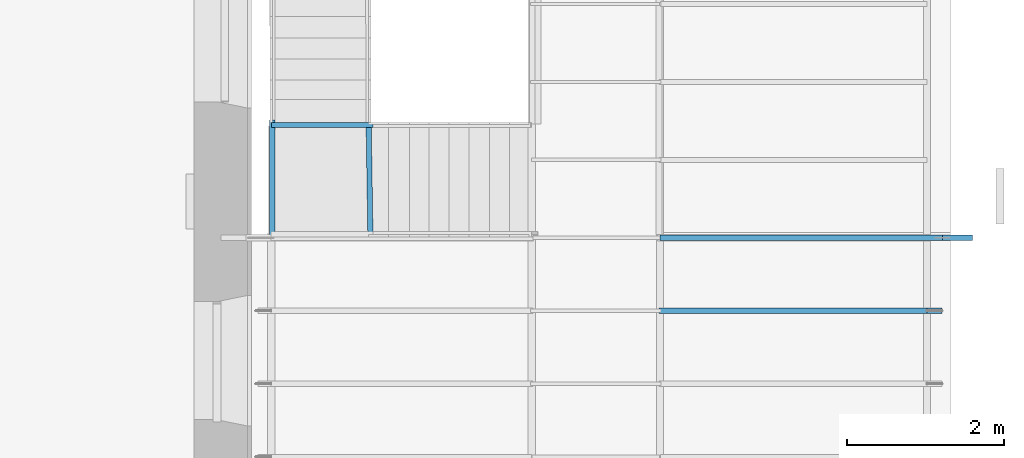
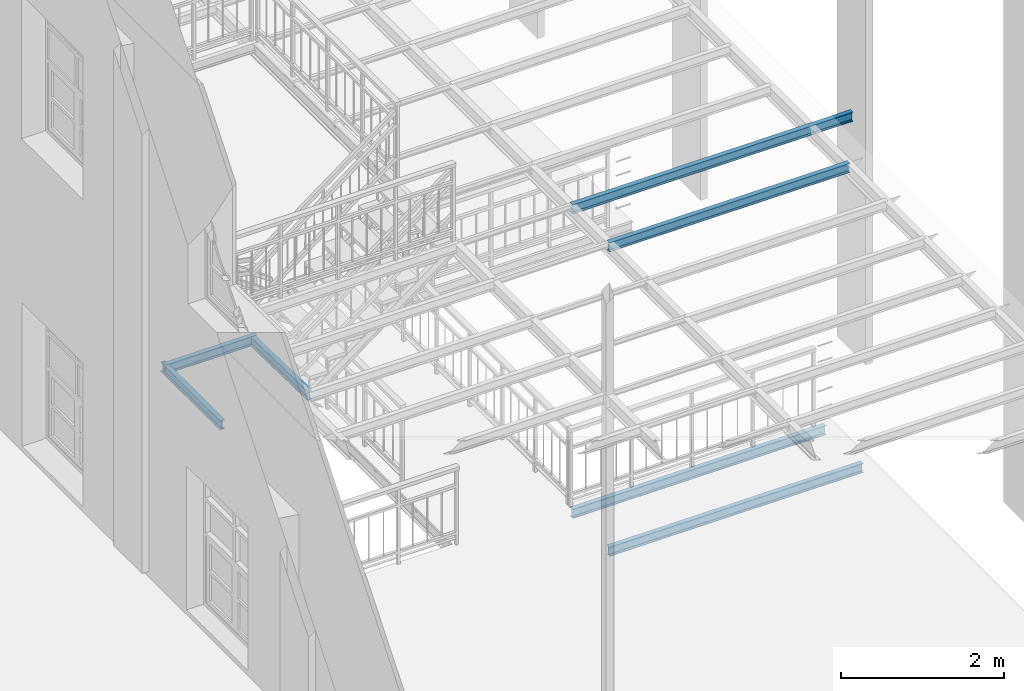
# One storey, part 9 of 33: 7 beams.
"""IFC2X3 building model written with IfcOpenShell, lengths in metres."""

import ifcopenshell
import ifcopenshell.guid

model = None  # the IFC model being written
_history = None  # IfcOwnerHistory: only IFC2X3 demands one
_inside = {}  # id of a spatial element -> (the spatial element, [elements in it])
_under = {}  # id of a project, library or spatial element -> (it, [spatial elements below it])
_declared = {}  # id of a project -> (the project, [libraries it declares])
_typed = {}  # id of a type object -> (the type object, [elements of that type])
_made_of = {}  # id of a material, layer set ... -> (it, [elements and type objects made of it])


def new_model(schema):
    """Start an empty IFC model of exactly this schema.

    Asked for "IFC4X3", IfcOpenShell would pick the latest addendum, in which some entities
    have other attributes; the version numbers below select the first issue.
    IFC2X3 requires an IfcOwnerHistory on every rooted entity: one is made here for all.
    """
    global model, _history
    if schema == "IFC4X3":
        model = ifcopenshell.file(schema_version=(4, 3, 0, 0))
    else:
        model = ifcopenshell.file(schema=schema)
    _inside.clear()
    _under.clear()
    _declared.clear()
    _typed.clear()
    _made_of.clear()
    _history = None
    if model.schema == "IFC2X3":
        org = make("IfcOrganization", Name="unknown")
        user = make(
            "IfcPersonAndOrganization",
            ThePerson=make("IfcPerson", FamilyName="unknown"),
            TheOrganization=org,
        )
        app = make(
            "IfcApplication",
            ApplicationDeveloper=org,
            Version="unknown",
            ApplicationFullName="unknown",
            ApplicationIdentifier="unknown",
        )
        _history = make(
            "IfcOwnerHistory",
            OwningUser=user,
            OwningApplication=app,
            ChangeAction="ADDED",
            CreationDate=0,
        )
    return model


def make(cls, **values):
    """One entity of the class cls with the attributes given. An attribute that is None is left unset."""
    return model.create_entity(
        cls, **{name: value for name, value in values.items() if value is not None}
    )


def entity(cls, *values):
    """Any entity or typed value of the class cls, its attributes in the order of the schema. None: left unset."""
    e = model.create_entity(cls)
    for i, value in enumerate(values):
        if value is not None:
            e[i] = value
    return e


def rooted(cls, **values):
    """An entity with a GlobalId (a new one), such as an element, a storey or a relation."""
    return make(cls, GlobalId=ifcopenshell.guid.new(), OwnerHistory=_history, **values)


def si_unit(unit_type, name, prefix=None):
    """IfcSIUnit, for example si_unit("LENGTHUNIT", "METRE", prefix="MILLI")."""
    return make("IfcSIUnit", UnitType=unit_type, Prefix=prefix, Name=name)


def converted_unit(unit_type, name, factor, base, dimensions=None, offset=None):
    """IfcConversionBasedUnit, such as the inch: factor (a typed value) times the base unit."""
    return make(
        "IfcConversionBasedUnit"
        if offset is None
        else "IfcConversionBasedUnitWithOffset",
        ConversionOffset=offset,
        Dimensions=None
        if dimensions is None
        else entity("IfcDimensionalExponents", *dimensions),
        UnitType=unit_type,
        Name=name,
        ConversionFactor=make(
            "IfcMeasureWithUnit", ValueComponent=factor, UnitComponent=base
        ),
    )


def derived_unit(unit_type, elements):
    """IfcDerivedUnit: a product of units, each with its exponent."""
    return make(
        "IfcDerivedUnit",
        Elements=[
            make("IfcDerivedUnitElement", Unit=unit, Exponent=power)
            for unit, power in elements
        ],
        UnitType=unit_type,
    )


def assignment(units):
    """IfcUnitAssignment: the units of a project."""
    return None if units is None else make("IfcUnitAssignment", Units=units)


def point(xyz):
    """IfcCartesianPoint."""
    return None if xyz is None else make("IfcCartesianPoint", Coordinates=xyz)


def direction(xyz):
    """IfcDirection."""
    return None if xyz is None else make("IfcDirection", DirectionRatios=xyz)


def frame(location, z_axis=None, x_axis=None):
    """IfcAxis2Placement3D, a coordinate frame: its origin and axes. An axis left out is left unset."""
    return make(
        "IfcAxis2Placement3D",
        Location=point(location),
        Axis=direction(z_axis),
        RefDirection=direction(x_axis),
    )


def frame_2d(location, x_axis=None):
    """IfcAxis2Placement2D, a coordinate frame in the plane: its origin and x axis."""
    return make(
        "IfcAxis2Placement2D", Location=point(location), RefDirection=direction(x_axis)
    )


def origin():
    """The frame at (0, 0, 0) with its axes left unset."""
    return frame((0.0, 0.0, 0.0))


def place(relative_to, where):
    """IfcLocalPlacement: puts the frame where relative to a parent placement (None: the world)."""
    return make(
        "IfcLocalPlacement", PlacementRelTo=relative_to, RelativePlacement=where
    )


def context(
    kind, dimensions, precision=None, world=None, true_north=None, identifier=None
):
    """IfcGeometricRepresentationContext, for example the 3D "Model" context."""
    return make(
        "IfcGeometricRepresentationContext",
        ContextIdentifier=identifier,
        ContextType=kind,
        CoordinateSpaceDimension=dimensions,
        Precision=precision,
        WorldCoordinateSystem=world,
        TrueNorth=true_north,
    )


def subcontext(parent, identifier, kind, view, scale=None):
    """IfcGeometricRepresentationSubContext, for example "Body" below "Model"."""
    return make(
        "IfcGeometricRepresentationSubContext",
        ContextIdentifier=identifier,
        ContextType=kind,
        ParentContext=parent,
        TargetScale=scale,
        TargetView=view,
    )


def project(units=None, contexts=None):
    """IfcProject with its units and contexts."""
    return rooted(
        "IfcProject",
        Name="project",
        RepresentationContexts=contexts,
        UnitsInContext=assignment(units),
    )


def spatial(cls, under=None, at=None, **own):
    """A site, building, storey or space (cls), placed at a placement, below another one or the project."""
    s = rooted(cls, ObjectPlacement=at, **own)
    if under is not None:
        _under.setdefault(under.id(), (under, []))[1].append(s)
    return s


def polyline(points):
    """IfcPolyline through the points."""
    return make("IfcPolyline", Points=[point(p) for p in points])


def circle_curve(where, radius):
    """IfcCircle in the frame where."""
    return make("IfcCircle", Position=where, Radius=radius)


def parameter(value):
    """IfcParameterValue: where a trimmed curve begins or ends, as a parameter of its basis curve."""
    return model.create_entity("IfcParameterValue", value)


def trimmed(basis, trim1, trim2, sense, master):
    """IfcTrimmedCurve: the piece of a basis curve between two trims."""
    return make(
        "IfcTrimmedCurve",
        BasisCurve=basis,
        Trim1=trim1,
        Trim2=trim2,
        SenseAgreement=sense,
        MasterRepresentation=master,
    )


def segment(curve, same_sense, transition):
    """IfcCompositeCurveSegment."""
    return make(
        "IfcCompositeCurveSegment",
        Transition=transition,
        SameSense=same_sense,
        ParentCurve=curve,
    )


def composite_curve(segments, self_intersect=None):
    """IfcCompositeCurve: segments joined end to end."""
    return make("IfcCompositeCurve", Segments=segments, SelfIntersect=self_intersect)


def outline(outer, holes=None, kind="AREA"):
    """IfcArbitraryClosedProfileDef: a profile drawn as a closed curve; with holes, ...WithVoids."""
    if holes is None:
        return make("IfcArbitraryClosedProfileDef", ProfileType=kind, OuterCurve=outer)
    return make(
        "IfcArbitraryProfileDefWithVoids",
        ProfileType=kind,
        OuterCurve=outer,
        InnerCurves=holes,
    )


def extrude(swept, where, along, depth):
    """IfcExtrudedAreaSolid: the profile swept, set in the frame where, extruded along a direction by depth."""
    return make(
        "IfcExtrudedAreaSolid",
        SweptArea=swept,
        Position=where,
        ExtrudedDirection=direction(along),
        Depth=depth,
    )


def shape(context_of_items, identifier, shape_type, items):
    """IfcShapeRepresentation: the items that make up one representation, for example the "Body"."""
    return make(
        "IfcShapeRepresentation",
        ContextOfItems=context_of_items,
        RepresentationIdentifier=identifier,
        RepresentationType=shape_type,
        Items=items,
    )


def material(Name=None, Category=None):
    """IfcMaterial."""
    return make("IfcMaterial", Name=Name, Category=Category)


def made_of(thing, what):
    """Note that an element or type object is made of a material, layer set ...; save() writes the relation."""
    if what is not None:
        _made_of.setdefault(what.id(), (what, []))[1].append(thing)
    return thing


def type_object(cls, material=None, **own):
    """A type object (cls), such as IfcWallType, which elements share."""
    return made_of(rooted(cls, **own), material)


def element(
    cls,
    number,
    at=None,
    inside=None,
    cuts=None,
    type_object=None,
    material=None,
    context=None,
    identifier="Body",
    shape_type=None,
    held_by="IfcProductDefinitionShape",
    body=None,
    shapes=None,
    **own,
):
    """One element of the class cls, such as IfcWall. Its Tag is "e" and its number.

    at: its placement. inside: the storey or other place that contains it. cuts: it is an
    opening in that element (IfcRelVoidsElement). A single representation is given by context,
    identifier, shape_type and body (its items); several are given by shapes. held_by: the class
    of the entity that holds the representations. save() writes the other relations.
    """
    e = rooted(cls, Tag="e%d" % number, ObjectPlacement=at, **own)
    if body is not None:
        shapes = [shape(context, identifier, shape_type, body)]
    if shapes is not None:
        e.Representation = make(held_by, Representations=shapes)
    if inside is not None:
        _inside.setdefault(inside.id(), (inside, []))[1].append(e)
    if cuts is not None:
        rooted(
            "IfcRelVoidsElement", RelatingBuildingElement=cuts, RelatedOpeningElement=e
        )
    if type_object is not None:
        _typed.setdefault(type_object.id(), (type_object, []))[1].append(e)
    return made_of(e, material)


def aggregate(whole, parts):
    """IfcRelAggregates: a whole, such as a stair, and the parts it consists of."""
    return rooted("IfcRelAggregates", RelatingObject=whole, RelatedObjects=parts)


def save(model, path):
    """Write the relations noted so far, then the file.

    IfcRelAggregates (storeys below a building ...), IfcRelContainedInSpatialStructure (elements
    in a storey), IfcRelDefinesByType, IfcRelAssociatesMaterial and IfcRelDeclares: one each for
    every whole, place, type object, material and project.
    """
    for whole, parts in _under.values():
        aggregate(whole, parts)
    for where, things in _inside.values():
        rooted(
            "IfcRelContainedInSpatialStructure",
            RelatedElements=things,
            RelatingStructure=where,
        )
    for kind, things in _typed.values():
        rooted("IfcRelDefinesByType", RelatedObjects=things, RelatingType=kind)
    for what, things in _made_of.values():
        rooted("IfcRelAssociatesMaterial", RelatedObjects=things, RelatingMaterial=what)
    for by, libraries in _declared.values():
        rooted("IfcRelDeclares", RelatingContext=by, RelatedDefinitions=libraries)
    model.write(path)


model = new_model("IFC2X3")

# Units and contexts
model_context = context("Model", 3, precision=1e-05, world=origin(), true_north=direction((6.12303176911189e-17, 1.0)))
body_context = subcontext(model_context, "Body", "Model", "MODEL_VIEW")
ifc_project = project(units=[si_unit("LENGTHUNIT", "METRE"), si_unit("AREAUNIT", "SQUARE_METRE"), si_unit("VOLUMEUNIT", "CUBIC_METRE"), converted_unit("PLANEANGLEUNIT", "DEGREE", entity("IfcRatioMeasure", 0.0174532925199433), si_unit("PLANEANGLEUNIT", "RADIAN"), dimensions=[0, 0, 0, 0, 0, 0, 0]), si_unit("MASSUNIT", "GRAM", prefix="KILO"), derived_unit("MASSDENSITYUNIT", [(si_unit("MASSUNIT", "GRAM", prefix="KILO"), 1), (si_unit("LENGTHUNIT", "METRE"), -3)]), derived_unit("MOMENTOFINERTIAUNIT", [(si_unit("LENGTHUNIT", "METRE"), 4)]), si_unit("TIMEUNIT", "SECOND"), si_unit("FREQUENCYUNIT", "HERTZ"), si_unit("THERMODYNAMICTEMPERATUREUNIT", "DEGREE_CELSIUS"), derived_unit("THERMALTRANSMITTANCEUNIT", [(si_unit("MASSUNIT", "GRAM", prefix="KILO"), 1), (si_unit("THERMODYNAMICTEMPERATUREUNIT", "KELVIN"), -1), (si_unit("TIMEUNIT", "SECOND"), -3)]), derived_unit("VOLUMETRICFLOWRATEUNIT", [(si_unit("LENGTHUNIT", "METRE"), 3), (si_unit("TIMEUNIT", "SECOND"), -1)]), si_unit("ELECTRICCURRENTUNIT", "AMPERE"), si_unit("ELECTRICVOLTAGEUNIT", "VOLT"), si_unit("POWERUNIT", "WATT"), si_unit("FORCEUNIT", "NEWTON", prefix="KILO"), si_unit("ILLUMINANCEUNIT", "LUX"), si_unit("LUMINOUSFLUXUNIT", "LUMEN"), si_unit("LUMINOUSINTENSITYUNIT", "CANDELA"), derived_unit("USERDEFINED", [(si_unit("MASSUNIT", "GRAM", prefix="KILO"), -1), (si_unit("LENGTHUNIT", "METRE"), -2), (si_unit("TIMEUNIT", "SECOND"), 3), (si_unit("LUMINOUSFLUXUNIT", "LUMEN"), 1)]), derived_unit("LINEARVELOCITYUNIT", [(si_unit("LENGTHUNIT", "METRE"), 1), (si_unit("TIMEUNIT", "SECOND"), -1)]), si_unit("PRESSUREUNIT", "PASCAL"), derived_unit("USERDEFINED", [(si_unit("LENGTHUNIT", "METRE"), -2), (si_unit("MASSUNIT", "GRAM", prefix="KILO"), 1), (si_unit("TIMEUNIT", "SECOND"), -2)]), derived_unit("LINEARFORCEUNIT", [(si_unit("MASSUNIT", "GRAM", prefix="KILO"), 1), (si_unit("LENGTHUNIT", "METRE"), 1), (si_unit("TIMEUNIT", "SECOND"), -2), (si_unit("LENGTHUNIT", "METRE"), -1)]), derived_unit("PLANARFORCEUNIT", [(si_unit("MASSUNIT", "GRAM", prefix="KILO"), 1), (si_unit("LENGTHUNIT", "METRE"), 1), (si_unit("TIMEUNIT", "SECOND"), -2), (si_unit("LENGTHUNIT", "METRE"), -2)])], contexts=[model_context])

# Site, building, storey
site_placement = place(None, origin())
site = spatial("IfcSite", under=ifc_project, at=site_placement, Name="Superficie", CompositionType="ELEMENT")
building_placement = place(site_placement, origin())
building = spatial("IfcBuilding", under=site, at=building_placement, Name="Telegestiones", CompositionType="ELEMENT")
storey_placement = place(building_placement, frame((0.0, 0.0, 4.94)))
storey = spatial("IfcBuildingStorey", under=building, at=storey_placement, Name="Nivel 1_NPT", CompositionType="ELEMENT", Elevation=4.94)

# Beams
ifc_material = material(Name="Metal - Acero - 345 MPa")
beam_type = type_object("IfcBeamType", Name="IPN - Secciones en I con alas cónicas:IPN 140", PredefinedType="NOTDEFINED")
beam_1_placement = place(storey_placement, frame((11.2748126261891, 1.4845940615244, 0.0)))
element("IfcBeam", 1, at=beam_1_placement, inside=storey, type_object=beam_type, material=ifc_material, Name="IPN - Secciones en I con alas cónicas:IPN 140", ObjectType="IPN - Secciones en I con alas cónicas:IPN 140", context=body_context, shape_type="SweptSolid", body=[
    extrude(outline(composite_curve([segment(polyline([(0.0666671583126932, -0.0329999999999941), (0.070000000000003, -0.0329999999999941)]), True, "CONTINUOUS"), segment(polyline([(0.070000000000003, -0.0329999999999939), (0.0699999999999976, 0.0330000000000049)]), True, "CONTINUOUS"), segment(polyline([(0.0699999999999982, 0.0330000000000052), (0.066667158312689, 0.0330000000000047)]), True, "CONTINUOUS"), segment(trimmed(circle_curve(frame_2d((0.0666671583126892, 0.0296000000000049), x_axis=(0.0, 1.0)), 0.00339999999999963), [parameter(0.0)], [parameter(82.0303896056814)], True, "PARAMETER"), True, "CONTINUOUS"), segment(polyline([(0.0632999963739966, 0.0300714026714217), (0.0601763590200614, 0.007759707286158)]), True, "CONTINUOUS"), segment(trimmed(circle_curve(frame_2d((0.0545314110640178, 0.0085500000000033), x_axis=(0.990341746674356, -0.138647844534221)), 0.0056999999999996), [parameter(277.969610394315)], [parameter(0.0)], True, "PARAMETER"), False, "CONTINUOUS"), segment(polyline([(0.0545314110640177, 0.00285000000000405), (-0.0545314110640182, 0.00284999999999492)]), True, "CONTINUOUS"), segment(trimmed(circle_curve(frame_2d((-0.0545314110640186, 0.00854999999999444), x_axis=(0.0, -1.0)), 0.00569999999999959), [parameter(277.969610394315)], [parameter(0.0)], True, "PARAMETER"), False, "CONTINUOUS"), segment(polyline([(-0.0601763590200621, 0.00775970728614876), (-0.0632999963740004, 0.0300714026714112)]), True, "CONTINUOUS"), segment(trimmed(circle_curve(frame_2d((-0.0666671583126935, 0.029599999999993), x_axis=(0.990341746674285, 0.13864784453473)), 0.00340000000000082), [parameter(0.0)], [parameter(82.0303896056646)], True, "PARAMETER"), True, "CONTINUOUS"), segment(polyline([(-0.0666671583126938, 0.0329999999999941), (-0.0700000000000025, 0.0329999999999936)]), True, "CONTINUOUS"), segment(polyline([(-0.0700000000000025, 0.0329999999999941), (-0.0699999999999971, -0.0330000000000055)]), True, "CONTINUOUS"), segment(polyline([(-0.0699999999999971, -0.0330000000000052), (-0.0666671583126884, -0.0330000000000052)]), True, "CONTINUOUS"), segment(trimmed(circle_curve(frame_2d((-0.0666671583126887, -0.0296000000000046), x_axis=(0.0, -1.0)), 0.00340000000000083), [parameter(0.0)], [parameter(82.0303896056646)], True, "PARAMETER"), True, "CONTINUOUS"), segment(polyline([(-0.0632999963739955, -0.0300714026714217), (-0.0601763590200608, -0.00775970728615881)]), True, "CONTINUOUS"), segment(trimmed(circle_curve(frame_2d((-0.0545314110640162, -0.00855000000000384), x_axis=(-0.990341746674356, 0.138647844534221)), 0.00569999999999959), [parameter(277.969610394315)], [parameter(0.0)], True, "PARAMETER"), False, "CONTINUOUS"), segment(polyline([(-0.0545314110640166, -0.00285000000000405), (0.0545314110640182, -0.00284999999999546)]), True, "CONTINUOUS"), segment(trimmed(circle_curve(frame_2d((0.0545314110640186, -0.00854999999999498), x_axis=(0.0, 1.0)), 0.0056999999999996), [parameter(277.969610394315)], [parameter(0.0)], True, "PARAMETER"), False, "CONTINUOUS"), segment(polyline([(0.0601763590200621, -0.00775970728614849), (0.063299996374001, -0.0300714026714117)]), True, "CONTINUOUS"), segment(trimmed(circle_curve(frame_2d((0.0666671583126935, -0.0295999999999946), x_axis=(-0.990341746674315, -0.138647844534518)), 0.00340000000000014), [parameter(0.0)], [parameter(82.0303896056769)], True, "PARAMETER"), True, "CONTINUOUS")], self_intersect=False)), frame((-0.00181922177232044, 0.0, -0.100000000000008), z_axis=(1.0, 0.0, 0.0), x_axis=(0.0, 0.0, -1.0)), (0.0, 0.0, 1.0), 3.59099999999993),
])
beam_2_placement = place(storey_placement, frame((11.2748126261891, 0.556847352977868, 0.0)))
element("IfcBeam", 2, at=beam_2_placement, inside=storey, type_object=beam_type, material=ifc_material, Name="IPN - Secciones en I con alas cónicas:IPN 140", ObjectType="IPN - Secciones en I con alas cónicas:IPN 140", context=body_context, shape_type="SweptSolid", body=[
    extrude(outline(composite_curve([segment(polyline([(0.0666671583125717, -0.0330000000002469), (0.0699999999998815, -0.0330000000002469)]), True, "CONTINUOUS"), segment(polyline([(0.0699999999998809, -0.033000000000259), (0.0700000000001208, 0.0329999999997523)]), True, "CONTINUOUS"), segment(polyline([(0.0700000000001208, 0.0329999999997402), (0.0666671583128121, 0.0329999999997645)]), True, "CONTINUOUS"), segment(trimmed(circle_curve(frame_2d((0.0666671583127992, 0.029599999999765), x_axis=(0.0, 1.0)), 0.00339999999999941), [parameter(0.0)], [parameter(82.0303896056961)], True, "PARAMETER"), True, "CONTINUOUS"), segment(polyline([(0.0632999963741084, 0.0300714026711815), (0.0601763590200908, 0.00775970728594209)]), True, "CONTINUOUS"), segment(trimmed(circle_curve(frame_2d((0.0545314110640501, 0.0085499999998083), x_axis=(0.990341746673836, -0.138647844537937)), 0.0056999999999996), [parameter(277.969610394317)], [parameter(0.0)], True, "PARAMETER"), False, "CONTINUOUS"), segment(polyline([(0.0545314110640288, 0.00284999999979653), (-0.054531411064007, 0.00285000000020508)]), True, "CONTINUOUS"), segment(trimmed(circle_curve(frame_2d((-0.0545314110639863, 0.00855000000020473), x_axis=(0.0, -1.0)), 0.00569999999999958), [parameter(277.969610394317)], [parameter(0.0)], True, "PARAMETER"), False, "CONTINUOUS"), segment(polyline([(-0.0601763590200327, 0.00775970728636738), (-0.0632999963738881, 0.0300714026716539)]), True, "CONTINUOUS"), segment(trimmed(circle_curve(frame_2d((-0.066667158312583, 0.0296000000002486), x_axis=(0.990341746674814, 0.138647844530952)), 0.00340000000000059), [parameter(0.0)], [parameter(82.0303896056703)], True, "PARAMETER"), True, "CONTINUOUS"), segment(polyline([(-0.0666671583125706, 0.033000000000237), (-0.0699999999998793, 0.0330000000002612)]), True, "CONTINUOUS"), segment(polyline([(-0.0699999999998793, 0.0330000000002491), (-0.0700000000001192, -0.032999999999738)]), True, "CONTINUOUS"), segment(polyline([(-0.0700000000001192, -0.0329999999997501), (-0.0666671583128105, -0.0329999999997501)]), True, "CONTINUOUS"), segment(trimmed(circle_curve(frame_2d((-0.0666671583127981, -0.0295999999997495), x_axis=(0.0, -1.0)), 0.00340000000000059), [parameter(0.0)], [parameter(82.0303896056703)], True, "PARAMETER"), True, "CONTINUOUS"), segment(polyline([(-0.0632999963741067, -0.0300714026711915), (-0.0601763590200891, -0.00775970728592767)]), True, "CONTINUOUS"), segment(trimmed(circle_curve(frame_2d((-0.0545314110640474, -0.00854999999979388), x_axis=(-0.990341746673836, 0.138647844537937)), 0.0056999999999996), [parameter(277.969610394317)], [parameter(0.0)], True, "PARAMETER"), False, "CONTINUOUS"), segment(polyline([(-0.0545314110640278, -0.00284999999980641), (0.0545314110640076, -0.00285000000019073)]), True, "CONTINUOUS"), segment(trimmed(circle_curve(frame_2d((0.0545314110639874, -0.00855000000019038), x_axis=(0.0, 1.0)), 0.00569999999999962), [parameter(277.969610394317)], [parameter(0.0)], True, "PARAMETER"), False, "CONTINUOUS"), segment(polyline([(0.0601763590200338, -0.00775970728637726), (0.0632999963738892, -0.0300714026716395)]), True, "CONTINUOUS"), segment(trimmed(circle_curve(frame_2d((0.0666671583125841, -0.0296000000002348), x_axis=(-0.990341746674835, -0.138647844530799)), 0.0033999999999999), [parameter(0.0)], [parameter(82.0303896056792)], True, "PARAMETER"), True, "CONTINUOUS")], self_intersect=False)), frame((-0.0149999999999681, 0.0, -0.100000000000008), z_axis=(1.0, 0.0, 0.0), x_axis=(0.0, 0.0, -1.0)), (0.0, 0.0, 1.0), 3.5949999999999),
])
beam_3_placement = place(storey_placement, frame((11.2748126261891, 1.4845940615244, 4.56)))
element("IfcBeam", 3, at=beam_3_placement, inside=storey, type_object=beam_type, material=ifc_material, Name="IPN - Secciones en I con alas cónicas:IPN 140", ObjectType="IPN - Secciones en I con alas cónicas:IPN 140", context=body_context, shape_type="SweptSolid", body=[
    extrude(outline(composite_curve([segment(polyline([(0.0666671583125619, -0.0330000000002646), (0.0699999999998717, -0.0330000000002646)]), True, "CONTINUOUS"), segment(polyline([(0.0699999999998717, -0.0330000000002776), (0.070000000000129, 0.0329999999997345)]), True, "CONTINUOUS"), segment(polyline([(0.0700000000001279, 0.0329999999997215), (0.0666671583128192, 0.0329999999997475)]), True, "CONTINUOUS"), segment(trimmed(circle_curve(frame_2d((0.066667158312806, 0.0295999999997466), x_axis=(0.0, 1.0)), 0.00340000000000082), [parameter(0.0)], [parameter(82.0303896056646)], True, "PARAMETER"), True, "CONTINUOUS"), segment(polyline([(0.0632999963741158, 0.0300714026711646), (0.0601763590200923, 0.00775970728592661)]), True, "CONTINUOUS"), segment(trimmed(circle_curve(frame_2d((0.0545314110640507, 0.00854999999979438), x_axis=(0.990341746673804, -0.138647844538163)), 0.0056999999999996), [parameter(277.969610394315)], [parameter(0.0)], True, "PARAMETER"), False, "CONTINUOUS"), segment(polyline([(0.0545314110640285, 0.00284999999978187), (-0.0545314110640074, 0.00285000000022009)]), True, "CONTINUOUS"), segment(trimmed(circle_curve(frame_2d((-0.0545314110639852, 0.0085500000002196), x_axis=(0.0, -1.0)), 0.00569999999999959), [parameter(277.969610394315)], [parameter(0.0)], True, "PARAMETER"), False, "CONTINUOUS"), segment(polyline([(-0.0601763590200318, 0.00775970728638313), (-0.0632999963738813, 0.0300714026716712)]), True, "CONTINUOUS"), segment(trimmed(circle_curve(frame_2d((-0.0666671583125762, 0.0296000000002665), x_axis=(0.990341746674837, 0.138647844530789)), 0.00340000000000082), [parameter(0.0)], [parameter(82.0303896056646)], True, "PARAMETER"), True, "CONTINUOUS"), segment(polyline([(-0.066667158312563, 0.0330000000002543), (-0.0699999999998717, 0.0330000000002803)]), True, "CONTINUOUS"), segment(polyline([(-0.0699999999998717, 0.0330000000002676), (-0.070000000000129, -0.0329999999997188)]), True, "CONTINUOUS"), segment(polyline([(-0.070000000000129, -0.0329999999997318), (-0.0666671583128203, -0.0329999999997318)]), True, "CONTINUOUS"), segment(trimmed(circle_curve(frame_2d((-0.066667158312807, -0.0295999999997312), x_axis=(0.0, -1.0)), 0.00340000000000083), [parameter(0.0)], [parameter(82.0303896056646)], True, "PARAMETER"), True, "CONTINUOUS"), segment(polyline([(-0.0632999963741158, -0.0300714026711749), (-0.0601763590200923, -0.00775970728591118)]), True, "CONTINUOUS"), segment(trimmed(circle_curve(frame_2d((-0.0545314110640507, -0.00854999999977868), x_axis=(-0.990341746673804, 0.138647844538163)), 0.00569999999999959), [parameter(277.969610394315)], [parameter(0.0)], True, "PARAMETER"), False, "CONTINUOUS"), segment(polyline([(-0.0545314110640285, -0.00284999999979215), (0.0545314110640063, -0.00285000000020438)]), True, "CONTINUOUS"), segment(trimmed(circle_curve(frame_2d((0.0545314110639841, -0.0085500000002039), x_axis=(0.0, 1.0)), 0.0056999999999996), [parameter(277.969610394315)], [parameter(0.0)], True, "PARAMETER"), False, "CONTINUOUS"), segment(polyline([(0.0601763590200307, -0.00775970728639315), (0.0632999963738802, -0.0300714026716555)]), True, "CONTINUOUS"), segment(trimmed(circle_curve(frame_2d((0.0666671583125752, -0.029600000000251), x_axis=(-0.990341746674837, -0.138647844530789)), 0.00340000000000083), [parameter(0.0)], [parameter(82.0303896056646)], True, "PARAMETER"), True, "CONTINUOUS")], self_intersect=False)), frame((-0.000999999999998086, 0.0, -0.100000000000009), z_axis=(1.0, 0.0, 0.0), x_axis=(0.0, 0.0, -1.0)), (0.0, 0.0, 1.0), 3.971),
])
beam_4_placement = place(storey_placement, frame((11.2748126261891, 0.556847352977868, 4.56)))
element("IfcBeam", 4, at=beam_4_placement, inside=storey, type_object=beam_type, material=ifc_material, Name="IPN - Secciones en I con alas cónicas:IPN 140", ObjectType="IPN - Secciones en I con alas cónicas:IPN 140", context=body_context, shape_type="SweptSolid", body=[
    extrude(outline(composite_curve([segment(polyline([(0.0666671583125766, -0.0330000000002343), (0.0699999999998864, -0.0330000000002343)]), True, "CONTINUOUS"), segment(polyline([(0.0699999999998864, -0.0330000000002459), (0.0700000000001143, 0.0329999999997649)]), True, "CONTINUOUS"), segment(polyline([(0.0700000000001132, 0.0329999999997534), (0.0666671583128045, 0.0329999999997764)]), True, "CONTINUOUS"), segment(trimmed(circle_curve(frame_2d((0.0666671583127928, 0.0295999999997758), x_axis=(0.0, 1.0)), 0.00340000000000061), [parameter(0.0)], [parameter(82.0303896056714)], True, "PARAMETER"), True, "CONTINUOUS"), segment(polyline([(0.0632999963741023, 0.0300714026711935), (0.0601763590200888, 0.00775970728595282)]), True, "CONTINUOUS"), segment(trimmed(circle_curve(frame_2d((0.0545314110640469, 0.00854999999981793), x_axis=(0.990341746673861, -0.138647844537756)), 0.0056999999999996), [parameter(277.969610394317)], [parameter(0.0)], True, "PARAMETER"), False, "CONTINUOUS"), segment(polyline([(0.0545314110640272, 0.00284999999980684), (-0.0545314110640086, 0.00285000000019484)]), True, "CONTINUOUS"), segment(trimmed(circle_curve(frame_2d((-0.054531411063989, 0.00855000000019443), x_axis=(0.0, -1.0)), 0.00569999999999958), [parameter(277.969610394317)], [parameter(0.0)], True, "PARAMETER"), False, "CONTINUOUS"), segment(polyline([(-0.0601763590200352, 0.00775970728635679), (-0.0632999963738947, 0.030071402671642)]), True, "CONTINUOUS"), segment(trimmed(circle_curve(frame_2d((-0.0666671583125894, 0.0296000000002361), x_axis=(0.990341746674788, 0.138647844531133)), 0.00340000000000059), [parameter(0.0)], [parameter(82.0303896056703)], True, "PARAMETER"), True, "CONTINUOUS"), segment(polyline([(-0.0666671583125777, 0.0330000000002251), (-0.0699999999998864, 0.0330000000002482)]), True, "CONTINUOUS"), segment(polyline([(-0.0699999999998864, 0.0330000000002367), (-0.0700000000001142, -0.0329999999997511)]), True, "CONTINUOUS"), segment(polyline([(-0.0700000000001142, -0.0329999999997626), (-0.0666671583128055, -0.0329999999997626)]), True, "CONTINUOUS"), segment(trimmed(circle_curve(frame_2d((-0.0666671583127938, -0.029599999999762), x_axis=(0.0, -1.0)), 0.00340000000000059), [parameter(0.0)], [parameter(82.0303896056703)], True, "PARAMETER"), True, "CONTINUOUS"), segment(polyline([(-0.0632999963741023, -0.0300714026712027), (-0.0601763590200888, -0.00775970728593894)]), True, "CONTINUOUS"), segment(trimmed(circle_curve(frame_2d((-0.0545314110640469, -0.00854999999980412), x_axis=(-0.990341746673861, 0.138647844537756)), 0.0056999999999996), [parameter(277.969610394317)], [parameter(0.0)], True, "PARAMETER"), False, "CONTINUOUS"), segment(polyline([(-0.0545314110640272, -0.00284999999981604), (0.0545314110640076, -0.00285000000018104)]), True, "CONTINUOUS"), segment(trimmed(circle_curve(frame_2d((0.0545314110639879, -0.00855000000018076), x_axis=(0.0, 1.0)), 0.00569999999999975), [parameter(277.969610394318)], [parameter(0.0)], True, "PARAMETER"), False, "CONTINUOUS"), segment(polyline([(0.0601763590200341, -0.00775970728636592), (0.0632999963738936, -0.0300714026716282)]), True, "CONTINUOUS"), segment(trimmed(circle_curve(frame_2d((0.0666671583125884, -0.0296000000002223), x_axis=(-0.990341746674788, -0.138647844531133)), 0.00340000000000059), [parameter(0.0)], [parameter(82.0303896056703)], True, "PARAMETER"), True, "CONTINUOUS")], self_intersect=False)), frame((-0.0150000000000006, 0.0, -0.100000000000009), z_axis=(1.0, 0.0, 0.0), x_axis=(0.0, 0.0, -1.0)), (0.0, 0.0, 1.0), 3.405),
])
beam_5_placement = place(storey_placement, frame((6.3478126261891, 3.29291204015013, 2.98941250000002), z_axis=(0.0, 0.0, 1.0), x_axis=(0.0, -1.0, 0.0)))
element("IfcBeam", 5, at=beam_5_placement, inside=storey, type_object=beam_type, material=ifc_material, Name="IPN - Secciones en I con alas cónicas:IPN 140", ObjectType="IPN - Secciones en I con alas cónicas:IPN 140", context=body_context, shape_type="SweptSolid", body=[
    extrude(outline(composite_curve([segment(polyline([(0.0666671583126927, -0.0330000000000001), (0.0699999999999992, -0.0330000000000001)]), True, "CONTINUOUS"), segment(polyline([(0.0700000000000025, -0.0330000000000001), (0.0699999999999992, 0.032999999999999)]), True, "CONTINUOUS"), segment(polyline([(0.0700000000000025, 0.032999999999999), (0.0666671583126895, 0.032999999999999)]), True, "CONTINUOUS"), segment(trimmed(circle_curve(frame_2d((0.0666671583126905, 0.0295999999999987), x_axis=(0.0, 1.0)), 0.00340000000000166), [parameter(0.0)], [parameter(82.0303896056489)], True, "PARAMETER"), True, "CONTINUOUS"), segment(polyline([(0.0632999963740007, 0.0300714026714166), (0.0601763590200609, 0.00775970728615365)]), True, "CONTINUOUS"), segment(trimmed(circle_curve(frame_2d((0.0545314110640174, 0.00854999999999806), x_axis=(0.990341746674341, -0.138647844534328)), 0.00569999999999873), [parameter(277.969610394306)], [parameter(0.0)], True, "PARAMETER"), False, "CONTINUOUS"), segment(polyline([(0.0545314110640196, 0.00284999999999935), (-0.0545314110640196, 0.00284999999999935)]), True, "CONTINUOUS"), segment(trimmed(circle_curve(frame_2d((-0.0545314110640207, 0.00854999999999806), x_axis=(0.0, -1.0)), 0.00569999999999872), [parameter(277.969610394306)], [parameter(0.0)], True, "PARAMETER"), False, "CONTINUOUS"), segment(polyline([(-0.0601763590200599, 0.00775970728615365), (-0.0632999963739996, 0.0300714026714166)]), True, "CONTINUOUS"), segment(trimmed(circle_curve(frame_2d((-0.0666671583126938, 0.0295999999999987), x_axis=(0.990341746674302, 0.138647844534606)), 0.00340000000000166), [parameter(0.0)], [parameter(82.0303896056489)], True, "PARAMETER"), True, "CONTINUOUS"), segment(polyline([(-0.0666671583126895, 0.032999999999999), (-0.0700000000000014, 0.032999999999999)]), True, "CONTINUOUS"), segment(polyline([(-0.0699999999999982, 0.032999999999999), (-0.0700000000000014, -0.0330000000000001)]), True, "CONTINUOUS"), segment(polyline([(-0.0699999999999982, -0.0330000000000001), (-0.0666671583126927, -0.0330000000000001)]), True, "CONTINUOUS"), segment(trimmed(circle_curve(frame_2d((-0.0666671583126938, -0.0295999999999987), x_axis=(0.0, -1.0)), 0.00340000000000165), [parameter(0.0)], [parameter(82.0303896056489)], True, "PARAMETER"), True, "CONTINUOUS"), segment(polyline([(-0.0632999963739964, -0.0300714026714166), (-0.0601763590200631, -0.00775970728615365)]), True, "CONTINUOUS"), segment(trimmed(circle_curve(frame_2d((-0.0545314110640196, -0.00854999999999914), x_axis=(-0.990341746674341, 0.138647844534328)), 0.00569999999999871), [parameter(277.969610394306)], [parameter(0.0)], True, "PARAMETER"), False, "CONTINUOUS"), segment(polyline([(-0.0545314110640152, -0.00285000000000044), (0.0545314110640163, -0.00285000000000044)]), True, "CONTINUOUS"), segment(trimmed(circle_curve(frame_2d((0.0545314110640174, -0.00854999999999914), x_axis=(0.0, 1.0)), 0.0056999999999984), [parameter(277.969610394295)], [parameter(0.0)], True, "PARAMETER"), False, "CONTINUOUS"), segment(polyline([(0.0601763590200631, -0.00775970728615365), (0.0632999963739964, -0.0300714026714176)]), True, "CONTINUOUS"), segment(trimmed(circle_curve(frame_2d((0.0666671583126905, -0.0295999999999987), x_axis=(-0.990341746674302, -0.138647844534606)), 0.00340000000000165), [parameter(0.0)], [parameter(82.0303896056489)], True, "PARAMETER"), True, "CONTINUOUS")], self_intersect=False)), frame((0.314256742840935, 0.0, -0.0700000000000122), z_axis=(1.0, 0.0, 0.0), x_axis=(0.0, 0.0, -1.0)), (0.0, 0.0, 1.0), 1.45890224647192),
])
beam_6_placement = place(storey_placement, frame((7.5725843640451, 2.91875008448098, 2.98941250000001), z_axis=(0.0, 0.0, 1.0), x_axis=(-1.0, 0.0, 0.0)))
element("IfcBeam", 6, at=beam_6_placement, inside=storey, type_object=beam_type, material=ifc_material, Name="IPN - Secciones en I con alas cónicas:IPN 140", ObjectType="IPN - Secciones en I con alas cónicas:IPN 140", context=body_context, shape_type="SweptSolid", body=[
    extrude(outline(composite_curve([segment(polyline([(0.0666671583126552, -0.033000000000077), (0.069999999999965, -0.033000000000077)]), True, "CONTINUOUS"), segment(polyline([(0.0699999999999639, -0.0330000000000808), (0.07000000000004, 0.0329999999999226)]), True, "CONTINUOUS"), segment(polyline([(0.0700000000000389, 0.0329999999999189), (0.0666671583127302, 0.0329999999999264)]), True, "CONTINUOUS"), segment(trimmed(circle_curve(frame_2d((0.0666671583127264, 0.0295999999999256), x_axis=(0.0, 1.0)), 0.0034000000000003), [parameter(0.0)], [parameter(82.0303896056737)], True, "PARAMETER"), True, "CONTINUOUS"), segment(polyline([(0.0632999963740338, 0.030071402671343), (0.060176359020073, 0.00775970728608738)]), True, "CONTINUOUS"), segment(trimmed(circle_curve(frame_2d((0.0545314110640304, 0.0085499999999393), x_axis=(0.990341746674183, -0.138647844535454)), 0.00569999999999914), [parameter(277.969610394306)], [parameter(0.0)], True, "PARAMETER"), False, "CONTINUOUS"), segment(polyline([(0.0545314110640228, 0.00284999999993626), (-0.0545314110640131, 0.00285000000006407)]), True, "CONTINUOUS"), segment(trimmed(circle_curve(frame_2d((-0.0545314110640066, 0.00855000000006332), x_axis=(0.0, -1.0)), 0.00569999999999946), [parameter(277.969610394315)], [parameter(0.0)], True, "PARAMETER"), False, "CONTINUOUS"), segment(polyline([(-0.0601763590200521, 0.00775970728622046), (-0.0632999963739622, 0.0300714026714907)]), True, "CONTINUOUS"), segment(trimmed(circle_curve(frame_2d((-0.0666671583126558, 0.0296000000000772), x_axis=(0.990341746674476, 0.138647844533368)), 0.0034000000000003), [parameter(0.0)], [parameter(82.0303896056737)], True, "PARAMETER"), True, "CONTINUOUS"), segment(polyline([(-0.066667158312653, 0.0330000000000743), (-0.0699999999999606, 0.0330000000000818)]), True, "CONTINUOUS"), segment(polyline([(-0.0699999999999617, 0.0330000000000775), (-0.0700000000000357, -0.0329999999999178)]), True, "CONTINUOUS"), segment(polyline([(-0.0700000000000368, -0.0329999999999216), (-0.066667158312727, -0.0329999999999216)]), True, "CONTINUOUS"), segment(trimmed(circle_curve(frame_2d((-0.0666671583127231, -0.0295999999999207), x_axis=(0.0, -1.0)), 0.0034000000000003), [parameter(0.0)], [parameter(82.0303896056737)], True, "PARAMETER"), True, "CONTINUOUS"), segment(polyline([(-0.0632999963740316, -0.0300714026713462), (-0.0601763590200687, -0.00775970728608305)]), True, "CONTINUOUS"), segment(trimmed(circle_curve(frame_2d((-0.054531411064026, -0.00854999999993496), x_axis=(-0.990341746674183, 0.138647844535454)), 0.00569999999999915), [parameter(277.969610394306)], [parameter(0.0)], True, "PARAMETER"), False, "CONTINUOUS"), segment(polyline([(-0.0545314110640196, -0.00284999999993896), (0.0545314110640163, -0.0028500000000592)]), True, "CONTINUOUS"), segment(trimmed(circle_curve(frame_2d((0.0545314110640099, -0.00855000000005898), x_axis=(0.0, 1.0)), 0.00569999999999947), [parameter(277.969610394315)], [parameter(0.0)], True, "PARAMETER"), False, "CONTINUOUS"), segment(polyline([(0.0601763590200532, -0.00775970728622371), (0.0632999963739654, -0.0300714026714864)]), True, "CONTINUOUS"), segment(trimmed(circle_curve(frame_2d((0.0666671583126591, -0.0296000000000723), x_axis=(-0.990341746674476, -0.138647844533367)), 0.0034000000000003), [parameter(0.0)], [parameter(82.0303896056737)], True, "PARAMETER"), True, "CONTINUOUS")], self_intersect=False)), frame((-0.0556141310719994, 0.0, -0.0700000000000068), z_axis=(1.0, 0.0, 0.0), x_axis=(0.0, 0.0, -1.0)), (0.0, 0.0, 1.0), 1.292),
])
beam_7_placement = place(storey_placement, frame((7.5665983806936, 3.29291204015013, 2.98941250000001), z_axis=(0.0, 0.0, 1.0), x_axis=(0.0159963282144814, -0.999872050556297, 0.0)))
element("IfcBeam", 7, at=beam_7_placement, inside=storey, type_object=beam_type, material=ifc_material, Name="IPN - Secciones en I con alas cónicas:IPN 140", ObjectType="IPN - Secciones en I con alas cónicas:IPN 140", context=body_context, shape_type="SweptSolid", body=[
    extrude(outline(composite_curve([segment(polyline([(0.0666671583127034, -0.0329999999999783), (0.0700000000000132, -0.0329999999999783)]), True, "CONTINUOUS"), segment(polyline([(0.0700000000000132, -0.0329999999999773), (0.0699999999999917, 0.0330000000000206)]), True, "CONTINUOUS"), segment(polyline([(0.0699999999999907, 0.0330000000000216), (0.066667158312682, 0.0330000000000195)]), True, "CONTINUOUS"), segment(trimmed(circle_curve(frame_2d((0.0666671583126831, 0.0296000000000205), x_axis=(0.0, 1.0)), 0.00340000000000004), [parameter(0.0)], [parameter(82.0303896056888)], True, "PARAMETER"), True, "CONTINUOUS"), segment(polyline([(0.0632999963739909, 0.0300714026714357), (0.0601763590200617, 0.00775970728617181)]), True, "CONTINUOUS"), segment(trimmed(circle_curve(frame_2d((0.0545314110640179, 0.00855000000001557), x_axis=(0.990341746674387, -0.138647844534)), 0.00569999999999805), [parameter(277.969610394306)], [parameter(0.0)], True, "PARAMETER"), False, "CONTINUOUS"), segment(polyline([(0.0545314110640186, 0.00285000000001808), (-0.0545314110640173, 0.00284999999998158)]), True, "CONTINUOUS"), segment(trimmed(circle_curve(frame_2d((-0.0545314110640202, 0.00854999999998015), x_axis=(0.0, -1.0)), 0.00569999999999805), [parameter(277.969610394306)], [parameter(0.0)], True, "PARAMETER"), False, "CONTINUOUS"), segment(polyline([(-0.0601763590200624, 0.00775970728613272), (-0.0632999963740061, 0.0300714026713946)]), True, "CONTINUOUS"), segment(trimmed(circle_curve(frame_2d((-0.0666671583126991, 0.0295999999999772), x_axis=(0.990341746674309, 0.138647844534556)), 0.00340000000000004), [parameter(0.0)], [parameter(82.0303896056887)], True, "PARAMETER"), True, "CONTINUOUS"), segment(polyline([(-0.0666671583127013, 0.0329999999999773), (-0.0700000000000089, 0.0329999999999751)]), True, "CONTINUOUS"), segment(polyline([(-0.0700000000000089, 0.0329999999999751), (-0.0699999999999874, -0.0330000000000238)]), True, "CONTINUOUS"), segment(polyline([(-0.0699999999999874, -0.0330000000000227), (-0.0666671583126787, -0.0330000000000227)]), True, "CONTINUOUS"), segment(trimmed(circle_curve(frame_2d((-0.0666671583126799, -0.0296000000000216), x_axis=(0.0, -1.0)), 0.00340000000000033), [parameter(0.0)], [parameter(82.0303896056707)], True, "PARAMETER"), True, "CONTINUOUS"), segment(polyline([(-0.0632999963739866, -0.0300714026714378), (-0.0601763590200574, -0.00775970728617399)]), True, "CONTINUOUS"), segment(trimmed(circle_curve(frame_2d((-0.0545314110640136, -0.00855000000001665), x_axis=(-0.990341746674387, 0.138647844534)), 0.00569999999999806), [parameter(277.969610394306)], [parameter(0.0)], True, "PARAMETER"), False, "CONTINUOUS"), segment(polyline([(-0.0545314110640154, -0.002850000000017), (0.0545314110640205, -0.00284999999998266)]), True, "CONTINUOUS"), segment(trimmed(circle_curve(frame_2d((0.0545314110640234, -0.00854999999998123), x_axis=(0.0, 1.0)), 0.00569999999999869), [parameter(277.969610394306)], [parameter(0.0)], True, "PARAMETER"), False, "CONTINUOUS"), segment(polyline([(0.0601763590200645, -0.0077597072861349), (0.0632999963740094, -0.0300714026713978)]), True, "CONTINUOUS"), segment(trimmed(circle_curve(frame_2d((0.0666671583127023, -0.0295999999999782), x_axis=(-0.990341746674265, -0.138647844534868)), 0.00340000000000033), [parameter(0.0)], [parameter(82.0303896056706)], True, "PARAMETER"), True, "CONTINUOUS")], self_intersect=False)), frame((0.37455951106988, 0.0, -0.0700000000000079), z_axis=(1.0, 0.0, 0.0), x_axis=(0.0, 0.0, -1.0)), (0.0, 0.0, 1.0), 1.38883804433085),
])

save(model, "model.ifc")
